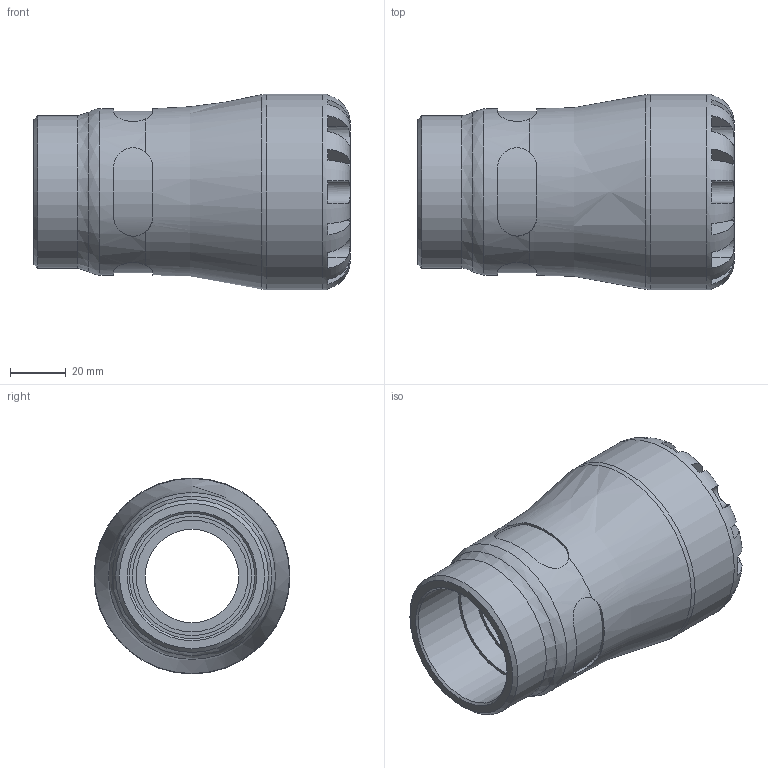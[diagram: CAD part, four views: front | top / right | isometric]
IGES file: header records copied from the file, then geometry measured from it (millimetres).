
Global section: file name: 107300040015_197300040015.ipt; native system: Autodesk Inventor 2015; preprocessor: unknown; author: KIM; date: 20170122.113616; units: millimetre
Bounding box: 113 x 70 x 70 mm (x, y, z)
Volume: 194615.1 mm3; surface area: 42282.9 mm2
Topology: 1 solids, 1 shells, 106 faces, 281 edges, 181 vertices
Faces by surface type: plane 62, revolution 28, cylinder 15, cone 1
Full cylindrical faces by diameter (mm): 54.6 x1, 59.5 x1, 70 x1
